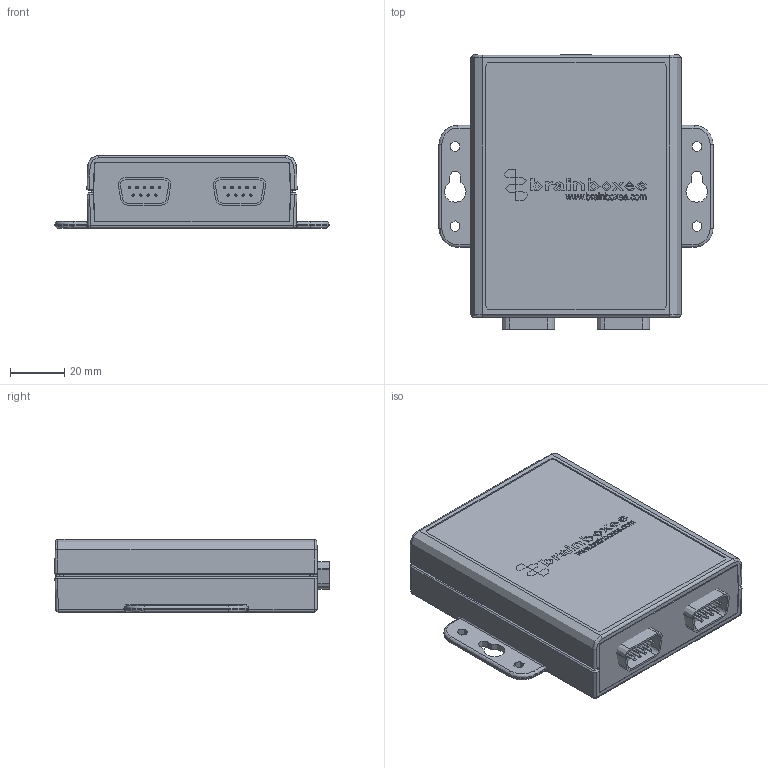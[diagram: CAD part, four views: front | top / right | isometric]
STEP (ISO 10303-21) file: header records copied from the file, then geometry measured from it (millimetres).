
FILE_DESCRIPTION(('STEP AP214'),'1');
FILE_NAME('US-313 Cased PCB 3D Step.step','2021-01-19T09:28:27',(' '),(' '),'Spatial InterOp 3D','XD3DPlugin XRACreate',' ');
FILE_SCHEMA(('automotive_design'));
Length unit declared in the file: millimetre
Products named in the file (23): Submodel-Input_S\00USBCONNB.xtd; 00USBCONNB; Submodel-00USBCONNB_part_simplified_USBCONNB; DesignRootModel; Submodel-Input_S\00MRD09.xtd; 00MRD09; Submodel-00MRD50_part_simplified_DB9RA_slash_M; uid__9223372036854778725; Submodel-AssyDefn_18; BrainboxesLogo.step; Submodel-AssyDefn_17; 00ESUSCASELIDNOHOLES.step; Submodel-AssyDefn_16; CamdenEndPanel.sat; Submodel-AssyDefn_14; 00ESUSCASEBASE.sat; Submodel-noModelForPart_TOOLINGPIN_2500184072; placementOutline; Submodel-TOOLINGPIN_2500184072_part_TOOLINGPIN; Submodel-noModelForPart_TOOLINGHOLE_399477976; Submodel-TOOLINGHOLE_399477976_part_TOOLINGHOLE; US-313 Cased PCB 3D Step
Assembly tree (28 placements, depth 5):
  US-313 Cased PCB 3D Step
    DesignRootModel
      Submodel-00USBCONNB_part_simplified_USBCONNB
        Submodel-Input_S\00USBCONNB.xtd
          00USBCONNB
      Submodel-00MRD50_part_simplified_DB9RA_slash_M  x2
        Submodel-Input_S\00MRD09.xtd
          00MRD09
      uid__9223372036854778725
      Submodel-AssyDefn_18  x2
        BrainboxesLogo.step
      Submodel-AssyDefn_17
        00ESUSCASELIDNOHOLES.step
      Submodel-AssyDefn_16  x2
        CamdenEndPanel.sat
      Submodel-AssyDefn_14
        00ESUSCASEBASE.sat
      Submodel-TOOLINGPIN_2500184072_part_TOOLINGPIN  x2
        Submodel-noModelForPart_TOOLINGPIN_2500184072
          placementOutline
      Submodel-TOOLINGHOLE_399477976_part_TOOLINGHOLE  x3
        Submodel-noModelForPart_TOOLINGHOLE_399477976
          placementOutline
Bounding box: 101 x 101.18 x 27.1 mm (x, y, z)
Volume: 66018.6 mm3; surface area: 75597.1 mm2
Topology: 88 solids, 88 shells, 2557 faces, 6713 edges, 4382 vertices
Faces by surface type: plane 1555, bspline 616, cylinder 318, sphere 40, torus 24, cone 4
Entity records: 73625 total; most frequent: CARTESIAN_POINT 16881, ORIENTED_EDGE 9102, DIRECTION 7871, EDGE_CURVE 4551, LINE 3357, VECTOR 3357, VERTEX_POINT 2961, AXIS2_PLACEMENT_3D 2257
